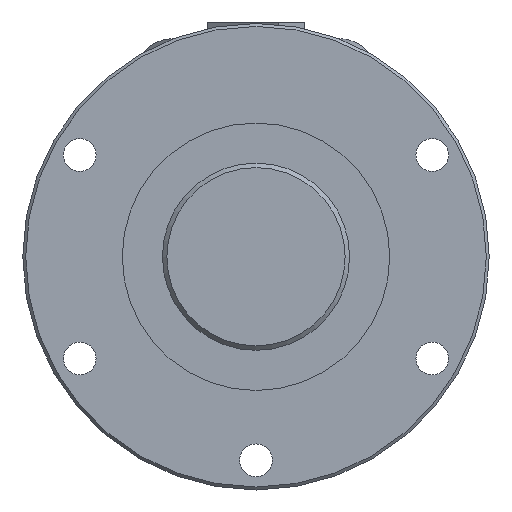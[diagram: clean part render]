
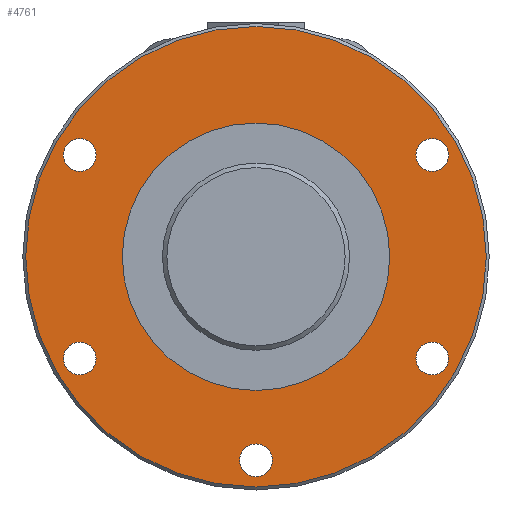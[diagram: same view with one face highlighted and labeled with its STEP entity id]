
A CAD part, left-side view. The second image highlights one B-rep face of the part: STEP entity #4761.
In plain terms, the highlighted planar face has unit normal (-1, 0, 0).
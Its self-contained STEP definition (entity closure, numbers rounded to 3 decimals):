
#1897=ORIENTED_EDGE('',*,*,#3051,.T.);
#1898=ORIENTED_EDGE('',*,*,#3052,.T.);
#1899=ORIENTED_EDGE('',*,*,#3053,.T.);
#1900=ORIENTED_EDGE('',*,*,#3054,.T.);
#1901=ORIENTED_EDGE('',*,*,#3055,.T.);
#1902=ORIENTED_EDGE('',*,*,#3056,.T.);
#1903=ORIENTED_EDGE('',*,*,#3057,.F.);
#3051=EDGE_CURVE('',#3611,#3611,#3751,.T.);
#3052=EDGE_CURVE('',#3612,#3612,#3752,.T.);
#3053=EDGE_CURVE('',#3613,#3613,#3753,.T.);
#3054=EDGE_CURVE('',#3614,#3614,#3754,.T.);
#3055=EDGE_CURVE('',#3615,#3615,#3755,.T.);
#3056=EDGE_CURVE('',#3616,#3616,#3756,.T.);
#3057=EDGE_CURVE('',#3617,#3617,#3757,.T.);
#3611=VERTEX_POINT('',#7822);
#3612=VERTEX_POINT('',#7824);
#3613=VERTEX_POINT('',#7826);
#3614=VERTEX_POINT('',#7828);
#3615=VERTEX_POINT('',#7830);
#3616=VERTEX_POINT('',#7832);
#3617=VERTEX_POINT('',#7834);
#3751=CIRCLE('',#5092,45.);
#3752=CIRCLE('',#5093,5.5);
#3753=CIRCLE('',#5094,5.5);
#3754=CIRCLE('',#5095,5.5);
#3755=CIRCLE('',#5096,5.5);
#3756=CIRCLE('',#5097,5.5);
#3757=CIRCLE('',#5098,77.5);
#3949=EDGE_LOOP('',(#1897));
#3950=EDGE_LOOP('',(#1898));
#3951=EDGE_LOOP('',(#1899));
#3952=EDGE_LOOP('',(#1900));
#3953=EDGE_LOOP('',(#1901));
#3954=EDGE_LOOP('',(#1902));
#3955=EDGE_LOOP('',(#1903));
#4273=FACE_BOUND('',#3949,.T.);
#4274=FACE_BOUND('',#3950,.T.);
#4275=FACE_BOUND('',#3951,.T.);
#4276=FACE_BOUND('',#3952,.T.);
#4277=FACE_BOUND('',#3953,.T.);
#4278=FACE_BOUND('',#3954,.T.);
#4279=FACE_BOUND('',#3955,.T.);
#4563=PLANE('',#5091);
#4761=ADVANCED_FACE('',(#4273,#4274,#4275,#4276,#4277,#4278,#4279),#4563,
 .T.);
#5091=AXIS2_PLACEMENT_3D('',#7820,#6041,#6042);
#5092=AXIS2_PLACEMENT_3D('',#7821,#6043,#6044);
#5093=AXIS2_PLACEMENT_3D('',#7823,#6045,#6046);
#5094=AXIS2_PLACEMENT_3D('',#7825,#6047,#6048);
#5095=AXIS2_PLACEMENT_3D('',#7827,#6049,#6050);
#5096=AXIS2_PLACEMENT_3D('',#7829,#6051,#6052);
#5097=AXIS2_PLACEMENT_3D('',#7831,#6053,#6054);
#5098=AXIS2_PLACEMENT_3D('',#7833,#6055,#6056);
#6041=DIRECTION('',(-1.,0.,0.));
#6042=DIRECTION('',(0.,0.,1.));
#6043=DIRECTION('',(1.,0.,0.));
#6044=DIRECTION('',(0.,0.,-1.));
#6045=DIRECTION('',(1.,0.,0.));
#6046=DIRECTION('',(0.,0.,-1.));
#6047=DIRECTION('',(1.,0.,0.));
#6048=DIRECTION('',(0.,0.,-1.));
#6049=DIRECTION('',(1.,0.,0.));
#6050=DIRECTION('',(0.,0.,-1.));
#6051=DIRECTION('',(1.,0.,0.));
#6052=DIRECTION('',(0.,0.,-1.));
#6053=DIRECTION('',(1.,0.,0.));
#6054=DIRECTION('',(0.,0.,-1.));
#6055=DIRECTION('',(1.,0.,0.));
#6056=DIRECTION('',(0.,0.,-1.));
#7820=CARTESIAN_POINT('',(0.,77.5,0.));
#7821=CARTESIAN_POINT('',(0.,0.,0.));
#7822=CARTESIAN_POINT('',(0.,0.,-45.));
#7823=CARTESIAN_POINT('',(0.,-68.5,0.));
#7824=CARTESIAN_POINT('',(0.,-68.5,-5.5));
#7825=CARTESIAN_POINT('',(0.,-34.25,59.323));
#7826=CARTESIAN_POINT('',(0.,-34.25,53.823));
#7827=CARTESIAN_POINT('',(0.,34.25,-59.323));
#7828=CARTESIAN_POINT('',(0.,34.25,-64.823));
#7829=CARTESIAN_POINT('',(0.,-34.25,-59.323));
#7830=CARTESIAN_POINT('',(0.,-34.25,-64.823));
#7831=CARTESIAN_POINT('',(0.,34.25,59.323));
#7832=CARTESIAN_POINT('',(0.,34.25,53.823));
#7833=CARTESIAN_POINT('',(0.,0.,0.));
#7834=CARTESIAN_POINT('',(0.,0.,-77.5));
